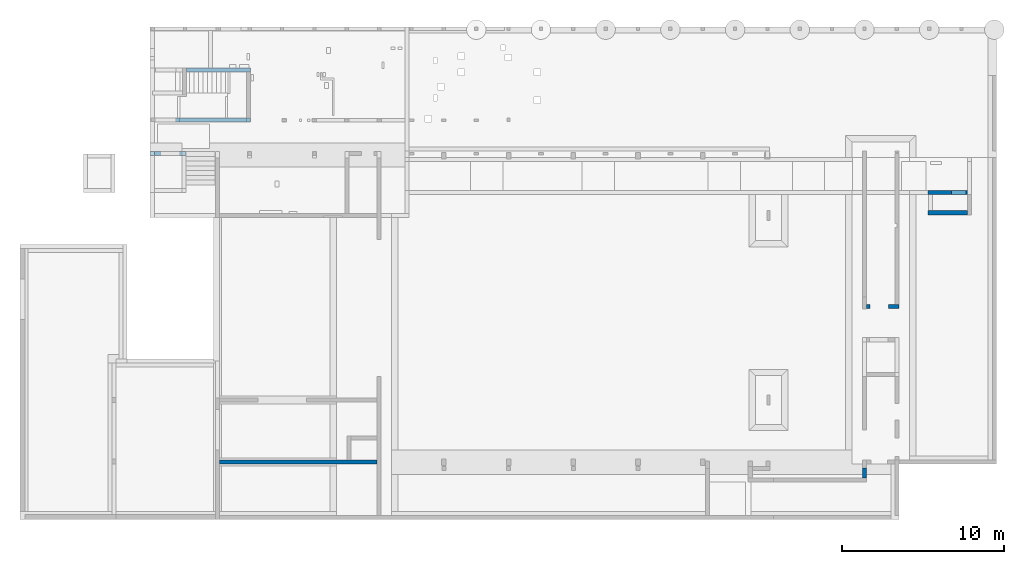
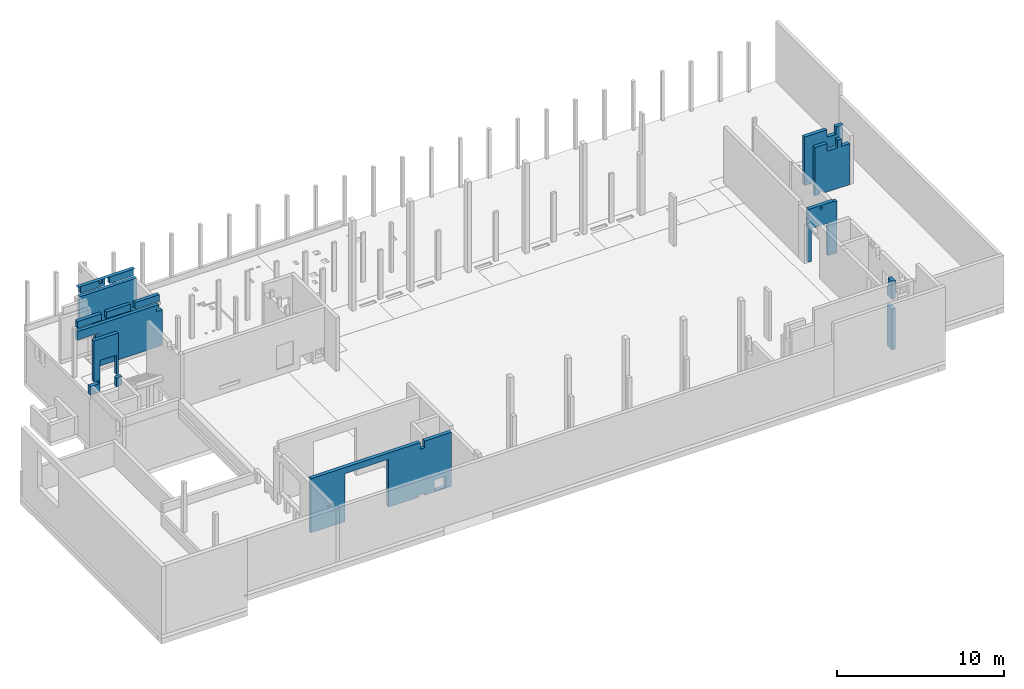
# One storey, part 12 of 12: 8 walls.
"""IFC2X3 building model written with IfcOpenShell, lengths in metres."""

from ifc_helpers import new_model, entity, si_unit, converted_unit, direction, frame, origin, place, context, subcontext, project, spatial, face_set, faceted_brep, surface_model, material, layer, layer_set, type_object, element, save


model = new_model("IFC2X3")

# Units and contexts
model_context = context("Model", 3, precision=1e-05, world=frame((30.086303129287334, 2.687674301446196, 462.0)), true_north=direction((0.19008937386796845, 0.9817667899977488)))
body_context = subcontext(model_context, "Body", "Model", "MODEL_VIEW")
ifc_project = project(units=[si_unit("LENGTHUNIT", "METRE"), si_unit("AREAUNIT", "SQUARE_METRE"), converted_unit("PLANEANGLEUNIT", "DEGREE", entity("IfcPlaneAngleMeasure", 0.017453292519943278), si_unit("PLANEANGLEUNIT", "RADIAN"), dimensions=[0, 0, 0, 0, 0, 0, 0]), si_unit("VOLUMEUNIT", "CUBIC_METRE")], contexts=[model_context])

# Site, building, storey
site_placement = place(None, origin())
site = spatial("IfcSite", under=ifc_project, at=site_placement, Name="Default", CompositionType="ELEMENT")
building_placement = place(site_placement, origin())
building = spatial("IfcBuilding", under=site, at=building_placement, CompositionType="ELEMENT")
storey_placement = place(building_placement, frame((0.0, 0.0, -3.800000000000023)))
storey = spatial("IfcBuildingStorey", under=building, at=storey_placement, Name="FB_U01_OKFB", CompositionType="ELEMENT", Elevation=-3.800000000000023)

# Walls
ifc_material_1 = material(Name="WS_CONCRETE_REINFORCED")
ifc_layer_1 = layer(ifc_material_1, 0.24999999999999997)
ifc_layer_set_1 = layer_set([ifc_layer_1], Name="Basiswand:WS_WAL_CON_250")
wall_type_1 = type_object("IfcWallType", Name="Basiswand:WS_WAL_CON_250", PredefinedType="STANDARD", material=ifc_layer_set_1)
wall_1_placement = place(storey_placement, frame((94.04533746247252, -3.7045709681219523, 3.6800000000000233)))
element("IfcWall", 1, at=wall_1_placement, inside=storey, type_object=wall_type_1, Name="Basiswand:WS_WAL_CON_250", ObjectType="Basiswand:WS_WAL_CON_250", context=body_context, shape_type="Brep", body=[
    faceted_brep([(0.0, -0.12500000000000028, 3.55), (0.0, -0.12500000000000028, 0.0), (0.9249999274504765, -0.12500000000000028, 0.0), (0.9249999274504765, -0.12500000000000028, 0.29999999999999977), (1.2249999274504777, -0.12499999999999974, 0.3000000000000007), (1.2249999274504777, -0.12499999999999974, 0.0), (2.4249999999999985, -0.12499999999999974, 0.0), (2.6749999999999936, -0.12500000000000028, 0.0), (2.6749999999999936, -0.12500000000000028, 3.55), (2.4249999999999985, -0.12499999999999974, 3.55), (2.1750000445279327, -0.12500000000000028, 3.55), (2.1750000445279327, -0.12500000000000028, 3.0), (1.5749993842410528, -0.12499999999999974, 3.0), (1.5749993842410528, -0.12499999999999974, 3.55), (2.3249993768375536, -0.12500000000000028, 1.0199999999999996), (1.4249993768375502, -0.12499999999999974, 1.019999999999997), (1.4249993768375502, -0.12499999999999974, 2.2199999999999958), (2.3249993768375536, -0.12500000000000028, 2.2199999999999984), (0.0, 0.12499999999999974, 0.0), (0.0, 0.12499999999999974, 3.55), (1.574999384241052, 0.12500000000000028, 3.55), (1.574999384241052, 0.12500000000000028, 3.0), (2.175000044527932, 0.12499999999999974, 3.0), (2.175000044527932, 0.12499999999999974, 3.55), (2.6749999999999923, 0.12499999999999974, 3.55), (2.6749999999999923, 0.12499999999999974, 0.0), (1.224999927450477, 0.12500000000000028, 0.0), (1.224999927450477, 0.12500000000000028, 0.3000000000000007), (0.9249999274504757, 0.12499999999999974, 0.29999999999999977), (0.9249999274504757, 0.12499999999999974, 0.0), (1.4249993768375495, 0.12500000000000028, 1.019999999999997), (2.3249993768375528, 0.12499999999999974, 1.0199999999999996), (2.3249993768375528, 0.12499999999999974, 2.2199999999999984), (1.4249993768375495, 0.12500000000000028, 2.2199999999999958)], [[[0, 1, 2, 3, 4, 5, 6, 7, 8, 9, 10, 11, 12, 13], [14, 15, 16, 17]], [[18, 19, 20, 21, 22, 23, 24, 25, 26, 27, 28, 29], [30, 31, 32, 33]], [[1, 18, 29, 2]], [[1, 0, 19, 18]], [[8, 7, 25, 24]], [[30, 15, 14, 31]], [[8, 24, 23, 10, 9]], [[27, 4, 3, 28]], [[28, 3, 2, 29]], [[4, 27, 26, 5]], [[32, 17, 16, 33]], [[33, 16, 15, 30]], [[17, 32, 31, 14]], [[21, 12, 11, 22]], [[12, 21, 20, 13]], [[22, 11, 10, 23]], [[19, 0, 13, 20]], [[25, 7, 6, 5, 26]]]),
])
wall_2_placement = place(storey_placement, frame((96.47033746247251, -4.959576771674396, 3.6800000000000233), z_axis=(0.0, 0.0, 1.0), x_axis=(-1.0, 0.0, 0.0)))
element("IfcWall", 2, at=wall_2_placement, inside=storey, type_object=wall_type_1, Name="Basiswand:WS_WAL_CON_250", ObjectType="Basiswand:WS_WAL_CON_250", context=body_context, shape_type="Brep", body=[
    faceted_brep([(2.4250000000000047, -0.12500000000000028, 0.0), (2.4250000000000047, -0.12500000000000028, 3.55), (1.5999999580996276, -0.12499999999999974, 3.55), (1.5999999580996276, -0.12499999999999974, 3.0), (0.849999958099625, -0.1249999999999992, 3.0), (0.849999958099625, -0.1249999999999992, 3.55), (0.5999999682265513, -0.12499999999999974, 3.55), (0.5999999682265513, -0.12499999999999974, 3.0), (0.0, -0.12499999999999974, 3.0), (0.0, -0.12499999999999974, 0.0), (1.7999999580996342, -0.12500000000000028, 0.0), (1.7999999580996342, -0.12500000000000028, 0.1499999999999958), (2.099999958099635, -0.12500000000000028, 0.14999999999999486), (2.099999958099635, -0.12500000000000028, 0.0), (2.169999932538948, -0.1249999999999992, 0.0), (2.4250000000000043, 0.12499999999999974, 3.55), (2.4250000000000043, 0.12499999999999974, 0.0), (2.0999999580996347, 0.12499999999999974, 0.0), (2.0999999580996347, 0.12499999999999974, 0.14999999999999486), (1.7999999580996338, 0.12499999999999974, 0.1499999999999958), (1.7999999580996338, 0.12499999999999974, 0.0), (0.0, 0.12499999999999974, 0.0), (0.0, 0.12499999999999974, 3.0), (0.5999999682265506, 0.12500000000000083, 3.0), (0.5999999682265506, 0.12500000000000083, 3.55), (0.8499999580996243, 0.12500000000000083, 3.55), (0.8499999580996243, 0.12500000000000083, 3.0), (1.5999999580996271, 0.12500000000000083, 3.0), (1.5999999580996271, 0.12500000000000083, 3.55)], [[[0, 1, 2, 3, 4, 5, 6, 7, 8, 9, 10, 11, 12, 13, 14]], [[15, 16, 17, 18, 19, 20, 21, 22, 23, 24, 25, 26, 27, 28]], [[9, 21, 20, 10]], [[1, 0, 16, 15]], [[21, 9, 8, 22]], [[5, 25, 24, 6]], [[3, 27, 26, 4]], [[7, 23, 22, 8]], [[27, 3, 2, 28]], [[4, 26, 25, 5]], [[23, 7, 6, 24]], [[11, 19, 18, 12]], [[12, 18, 17, 13]], [[19, 11, 10, 20]], [[1, 15, 28, 2]], [[16, 0, 14, 13, 17]]]),
])
wall_3_placement = place(storey_placement, frame((90.23033691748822, -10.759648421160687, 3.6800000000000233)))
element("IfcWall", 3, at=wall_3_placement, inside=storey, type_object=wall_type_1, Name="Basiswand:WS_WAL_CON_250", ObjectType="Basiswand:WS_WAL_CON_250", context=body_context, shape_type="Brep", body=[
    faceted_brep([(2.0000018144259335, -0.12499999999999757, 0.0), (1.3640004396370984, -0.12499999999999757, 0.0), (1.3640004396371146, 0.12500000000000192, 0.0), (1.750001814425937, 0.12499999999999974, 0.0), (2.000001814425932, 0.12500000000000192, 0.0), (0.21900043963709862, -0.12499999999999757, 0.0), (0.0, -0.12499999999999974, 0.0), (0.0, 0.12499999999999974, 0.0), (0.219000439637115, 0.12500000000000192, 0.0), (0.21900043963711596, -0.12499999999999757, 2.384999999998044), (0.0, -0.12499999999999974, 3.8549999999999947), (0.814397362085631, -0.12499999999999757, 3.6050000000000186), (0.830289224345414, -0.12499999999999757, 3.5842893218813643), (0.8509999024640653, -0.12499999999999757, 3.568397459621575), (0.8751179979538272, -0.12499999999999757, 3.5584074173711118), (1.3640004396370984, -0.12499999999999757, 2.384999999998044), (0.9009999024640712, -0.12499999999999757, 3.555000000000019), (0.9268818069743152, -0.12499999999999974, 3.5584074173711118), (0.9509999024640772, -0.12499999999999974, 3.5683974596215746), (0.9717105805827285, -0.12499999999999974, 3.5842893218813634), (1.7500018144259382, -0.12499999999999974, 3.8), (2.0000018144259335, -0.12499999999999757, 3.8), (0.9876024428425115, -0.12499999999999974, 3.605000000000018), (0.9975924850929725, -0.12499999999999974, 3.629118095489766), (1.000999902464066, -0.12499999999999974, 3.655000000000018), (0.9975924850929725, -0.12499999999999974, 3.6808819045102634), (1.7500018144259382, -0.12499999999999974, 3.8549999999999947), (0.9009999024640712, -0.12499999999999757, 3.7549999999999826), (0.9876024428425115, -0.12499999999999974, 3.7050000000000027), (0.9717105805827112, -0.12499999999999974, 3.7257106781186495), (0.9509999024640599, -0.12499999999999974, 3.7416025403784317), (0.9268818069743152, -0.12499999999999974, 3.7515925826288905), (0.8751179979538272, -0.12499999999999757, 3.7515925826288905), (0.8044073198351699, -0.12499999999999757, 3.6291180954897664), (0.8009999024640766, -0.12499999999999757, 3.6550000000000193), (0.8044073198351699, -0.12499999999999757, 3.6808819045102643), (0.8143973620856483, -0.12499999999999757, 3.705000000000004), (0.8302892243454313, -0.12499999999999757, 3.7257106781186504), (0.8509999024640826, -0.12499999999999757, 3.7416025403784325), (2.000001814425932, 0.12500000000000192, 3.55), (1.3640004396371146, 0.12500000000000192, 2.384999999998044), (0.9717105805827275, 0.12499999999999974, 3.5842893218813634), (0.9876024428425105, 0.12499999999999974, 3.605000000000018), (1.750001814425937, 0.12499999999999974, 3.8), (2.000001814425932, 0.12500000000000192, 3.8), (0.9509999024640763, 0.12499999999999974, 3.5683974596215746), (0.9268818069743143, 0.12499999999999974, 3.5584074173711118), (0.9009999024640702, 0.12500000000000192, 3.555000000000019), (0.8751179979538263, 0.12500000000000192, 3.5584074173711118), (0.219000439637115, 0.12500000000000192, 2.384999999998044), (0.8509999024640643, 0.12500000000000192, 3.568397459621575), (0.830289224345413, 0.12500000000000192, 3.5842893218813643), (0.81439736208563, 0.12500000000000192, 3.6050000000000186), (0.0, 0.12499999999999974, 3.8549999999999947), (0.804407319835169, 0.12500000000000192, 3.6291180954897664), (0.8009999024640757, 0.12500000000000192, 3.6550000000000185), (0.804407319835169, 0.12500000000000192, 3.6808819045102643), (0.8143973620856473, 0.12500000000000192, 3.705000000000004), (0.8302892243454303, 0.12500000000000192, 3.7257106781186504), (0.8509999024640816, 0.12500000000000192, 3.7416025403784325), (0.8751179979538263, 0.12500000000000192, 3.7515925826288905), (0.9009999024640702, 0.12500000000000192, 3.7549999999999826), (1.750001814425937, 0.12499999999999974, 3.8549999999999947), (0.9975924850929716, 0.12499999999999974, 3.6808819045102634), (0.9876024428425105, 0.12499999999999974, 3.7050000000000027), (0.9717105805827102, 0.12499999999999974, 3.7257106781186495), (0.950999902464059, 0.12499999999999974, 3.7416025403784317), (0.9268818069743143, 0.12499999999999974, 3.7515925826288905), (0.9975924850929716, 0.12499999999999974, 3.629118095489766), (1.0009999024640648, 0.12499999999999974, 3.655000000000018)], [[[0, 1, 2, 3, 4]], [[5, 6, 7, 8]], [[6, 5, 9]], [[6, 9, 10]], [[9, 11, 10]], [[12, 11, 9]], [[13, 12, 9]], [[14, 13, 9]], [[15, 14, 9]], [[15, 16, 14]], [[17, 16, 15]], [[18, 17, 15]], [[18, 15, 19]], [[15, 20, 19]], [[15, 21, 20]], [[0, 21, 15]], [[1, 0, 15]], [[20, 22, 19]], [[20, 23, 22]], [[20, 24, 23]], [[25, 24, 20]], [[20, 26, 25]], [[10, 27, 26]], [[25, 26, 28]], [[29, 28, 26]], [[29, 26, 30]], [[31, 30, 26]], [[31, 26, 27]], [[32, 27, 10]], [[33, 10, 11]], [[33, 34, 10]], [[35, 10, 34]], [[10, 35, 36]], [[36, 37, 10]], [[37, 38, 10]], [[38, 32, 10]], [[39, 4, 40]], [[41, 39, 40]], [[42, 39, 41]], [[39, 42, 43]], [[43, 44, 39]], [[4, 3, 40]], [[40, 3, 2]], [[45, 41, 40]], [[40, 46, 45]], [[47, 46, 40]], [[47, 40, 48]], [[40, 49, 48]], [[48, 49, 50]], [[51, 50, 49]], [[52, 51, 49]], [[53, 52, 49]], [[7, 53, 49]], [[8, 7, 49]], [[54, 52, 53]], [[55, 54, 53]], [[56, 55, 53]], [[53, 57, 56]], [[58, 57, 53]], [[58, 53, 59]], [[59, 53, 60]], [[61, 60, 53]], [[61, 53, 62]], [[62, 43, 63]], [[63, 64, 62]], [[64, 65, 62]], [[65, 66, 62]], [[62, 66, 67]], [[67, 61, 62]], [[42, 68, 43]], [[68, 69, 43]], [[43, 69, 63]], [[10, 26, 62, 53]], [[7, 6, 10, 53]], [[2, 1, 15, 40]], [[40, 15, 9, 49]], [[49, 9, 5, 8]], [[43, 20, 21, 44]], [[21, 0, 4, 39, 44]], [[20, 43, 62, 26]], [[64, 63, 25, 28]], [[64, 28, 29, 65]], [[67, 66, 30, 31]], [[29, 30, 66, 65]], [[61, 67, 31, 27]], [[69, 24, 25, 63]], [[59, 60, 32, 38]], [[59, 38, 37, 58]], [[56, 57, 36, 35]], [[37, 36, 57, 58]], [[55, 56, 35, 34]], [[27, 32, 60, 61]], [[52, 54, 33, 11]], [[52, 11, 12, 51]], [[48, 50, 13, 14]], [[12, 13, 50, 51]], [[47, 48, 14, 16]], [[55, 34, 33, 54]], [[45, 46, 17, 18]], [[45, 18, 19, 41]], [[68, 42, 22, 23]], [[19, 22, 42, 41]], [[69, 68, 23, 24]], [[16, 17, 46, 47]]]),
])
wall_4_placement = place(storey_placement, frame((59.98033735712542, -20.35964898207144, 3.6800000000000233), z_axis=(0.0, 0.0, 1.0), x_axis=(-1.0, 0.0, 0.0)))
element("IfcWall", 4, at=wall_4_placement, inside=storey, type_object=wall_type_1, Name="Basiswand:WS_WAL_CON_250", ObjectType="Basiswand:WS_WAL_CON_250", context=body_context, shape_type="SurfaceModel", body=[
    surface_model("IfcFaceBasedSurfaceModel", [(7.375000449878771, -0.12499999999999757, 3.519999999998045), (4.375000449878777, -0.12499999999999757, 3.519999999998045), (4.375000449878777, -0.12499999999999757, 0.0), (2.2599999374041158, -0.12499999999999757, 0.0), (2.2599999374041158, -0.12499999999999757, 0.14999999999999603), (1.8599999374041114, -0.12499999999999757, 0.14999999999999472), (1.8599999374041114, -0.12499999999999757, 0.0), (1.6099999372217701, -0.12499999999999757, 0.0), (0.0, -0.12499999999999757, 0.0), (0.0, -0.12499999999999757, 3.969999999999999), (1.8599999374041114, -0.12499999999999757, 3.96999999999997), (1.8599999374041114, -0.12499999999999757, 3.4699999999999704), (2.1599999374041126, -0.12500000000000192, 3.4699999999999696), (2.1599999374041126, -0.12500000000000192, 3.969999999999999), (8.246777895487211, -0.12499999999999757, 3.9699999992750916), (8.21702821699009, -0.12499999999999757, 3.9660649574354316), (8.189309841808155, -0.12499999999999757, 3.9545674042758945), (8.165509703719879, -0.12499999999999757, 3.9362902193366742), (8.147248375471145, -0.12499999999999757, 3.912477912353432), (8.135769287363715, -0.12499999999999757, 3.884751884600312), (8.131854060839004, -0.12499999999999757, 3.8550000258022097), (8.135772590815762, -0.12499999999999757, 3.8252358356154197), (8.147261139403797, -0.12499999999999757, 3.7975000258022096), (8.165536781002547, -0.12499999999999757, 3.773682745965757), (8.189354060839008, -0.12499999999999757, 3.7554071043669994), (8.217089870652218, -0.12499999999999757, 3.743918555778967), (8.246854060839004, -0.12499999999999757, 3.7400000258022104), (8.27661825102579, -0.12499999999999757, 3.7439185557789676), (8.304354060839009, -0.12499999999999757, 3.7554071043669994), (8.32817134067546, -0.12499999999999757, 3.773682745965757), (8.34644698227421, -0.12499999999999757, 3.79750002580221), (8.357935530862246, -0.12499999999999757, 3.8252358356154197), (8.361854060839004, -0.12499999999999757, 3.8550000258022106), (8.358962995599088, -0.12499999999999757, 3.880623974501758), (8.350449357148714, -0.12499999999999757, 3.9049301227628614), (8.336740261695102, -0.12499999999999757, 3.926731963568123), (8.318525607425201, -0.12499999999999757, 3.944934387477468), (8.296714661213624, -0.12499999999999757, 3.958628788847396), (8.272394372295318, -0.12499999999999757, 3.9671280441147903), (8.246777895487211, -0.12499999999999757, 3.969999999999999), (9.750000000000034, -0.12499999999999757, 3.969999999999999), (9.750000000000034, -0.12499999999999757, 0.0), (7.375000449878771, -0.12499999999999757, 0.0), (1.2000000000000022, -0.12499999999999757, 0.08000000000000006), (1.2000000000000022, -0.12499999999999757, 0.8799999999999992), (0.4000000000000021, -0.12499999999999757, 0.8799999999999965), (0.4000000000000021, -0.12499999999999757, 0.07999999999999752), (7.37500044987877, 0.12500000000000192, 0.0), (9.750000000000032, 0.12500000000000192, 0.0), (9.750000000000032, 0.12500000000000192, 3.969999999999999), (8.246930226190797, 0.12500000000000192, 3.9699999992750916), (8.276679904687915, 0.12500000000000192, 3.9660649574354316), (8.30439827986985, 0.12500000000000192, 3.9545674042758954), (8.328198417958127, 0.12500000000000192, 3.9362902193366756), (8.346459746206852, 0.12500000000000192, 3.9124779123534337), (8.357938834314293, 0.12500000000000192, 3.884751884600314), (8.361854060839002, 0.12500000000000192, 3.85500002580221), (8.357935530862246, 0.12500000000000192, 3.8252358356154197), (8.34644698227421, 0.12500000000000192, 3.79750002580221), (8.32817134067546, 0.12500000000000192, 3.773682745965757), (8.304354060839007, 0.12500000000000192, 3.7554071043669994), (8.27661825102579, 0.12500000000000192, 3.7439185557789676), (8.246854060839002, 0.12500000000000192, 3.7400000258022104), (8.217089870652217, 0.12500000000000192, 3.743918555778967), (8.189354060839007, 0.12500000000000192, 3.7554071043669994), (8.165536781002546, 0.12500000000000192, 3.773682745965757), (8.147261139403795, 0.12500000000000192, 3.7975000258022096), (8.13577259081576, 0.12500000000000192, 3.8252358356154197), (8.131854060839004, 0.12500000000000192, 3.8550000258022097), (8.13474512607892, 0.12500000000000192, 3.8806239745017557), (8.143258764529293, 0.12500000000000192, 3.90493012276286), (8.156967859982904, 0.12500000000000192, 3.9267319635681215), (8.175182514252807, 0.12500000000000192, 3.944934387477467), (8.196993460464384, 0.12500000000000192, 3.9586287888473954), (8.221313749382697, 0.12500000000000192, 3.967128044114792), (8.246930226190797, 0.12500000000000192, 3.969999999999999), (2.1599999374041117, 0.12499999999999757, 3.969999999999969), (2.1599999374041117, 0.12499999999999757, 3.469999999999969), (1.8599999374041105, 0.12500000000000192, 3.4699999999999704), (1.8599999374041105, 0.12500000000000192, 3.969999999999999), (0.0, 0.12500000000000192, 3.969999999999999), (0.0, 0.12500000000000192, 0.14999999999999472), (0.0, 0.12500000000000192, 0.0), (1.8599999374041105, 0.12500000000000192, 0.0), (1.8599999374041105, 0.12500000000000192, 0.14999999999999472), (2.259999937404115, 0.12500000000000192, 0.14999999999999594), (2.259999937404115, 0.12500000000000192, 0.0), (4.375000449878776, 0.12500000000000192, 0.0), (4.375000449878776, 0.12500000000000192, 3.519999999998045), (7.37500044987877, 0.12500000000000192, 3.519999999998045), (0.4000000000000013, 0.12500000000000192, 0.07999999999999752), (0.4000000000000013, 0.12500000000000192, 0.8799999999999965), (1.2000000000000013, 0.12500000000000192, 0.8799999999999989), (1.2000000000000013, 0.12500000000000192, 0.08000000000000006)], [face_set([[[0, 1, 2, 3, 4, 5, 6, 7, 8, 9, 10, 11, 12, 13, 14, 15, 16, 17, 18, 19, 20, 21, 22, 23, 24, 25, 26, 27, 28, 29, 30, 31, 32, 33, 34, 35, 36, 37, 38, 39, 40, 41, 42], [43, 44, 45, 46]], [[47, 48, 49, 50, 51, 52, 53, 54, 55, 56, 57, 58, 59, 60, 61, 62, 63, 64, 65, 66, 67, 68, 69, 70, 71, 72, 73, 74, 75, 76, 77, 78, 79, 80, 81, 82, 83, 84, 85, 86, 87, 88, 89], [90, 91, 92, 93]], [[8, 82, 83, 6, 7]], [[82, 8, 9, 80, 81]], [[41, 40, 49, 48]], [[14, 13, 76, 50, 49, 40]], [[90, 93, 43, 46]], [[92, 44, 45, 91]], [[91, 90, 46, 45]], [[44, 92, 93, 43]], [[0, 89, 47, 42]], [[89, 0, 1, 88]], [[88, 87, 2, 1]], [[12, 11, 78, 77]], [[77, 12, 13, 76]], [[11, 10, 79, 78]], [[19, 20, 69]], [[19, 70, 18]], [[16, 15, 73]], [[16, 17, 72]], [[17, 18, 71]], [[74, 15, 14]], [[68, 69, 20]], [[69, 70, 19]], [[70, 71, 18]], [[71, 72, 17]], [[16, 72, 73]], [[15, 74, 73]], [[14, 50, 74]], [[51, 38, 37]], [[36, 52, 37]], [[34, 33, 55]], [[54, 35, 34]], [[53, 36, 35]], [[56, 33, 32]], [[38, 51, 50]], [[37, 52, 51]], [[36, 53, 52]], [[35, 54, 53]], [[55, 54, 34]], [[33, 56, 55]], [[38, 50, 14]], [[58, 57, 31, 30]], [[59, 58, 30, 29]], [[27, 28, 60, 61]], [[60, 59, 29, 28]], [[26, 27, 61, 62]], [[57, 56, 32, 31]], [[24, 25, 63, 64]], [[23, 24, 64, 65]], [[21, 22, 66, 67]], [[22, 23, 65, 66]], [[20, 21, 67, 68]], [[62, 63, 25, 26]], [[85, 4, 5, 84]], [[84, 83, 6, 5]], [[4, 85, 86, 3]], [[9, 80, 79, 10]], [[87, 2, 3, 86]], [[48, 41, 42, 47]]])]),
])
wall_5_placement = place(storey_placement, frame((45.95533900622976, -1.2946478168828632, 3.6800000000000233)))
element("IfcWall", 5, at=wall_5_placement, inside=storey, type_object=wall_type_1, Name="Basiswand:WS_WAL_CON_250", ObjectType="Basiswand:WS_WAL_CON_250", context=body_context, shape_type="Brep", body=[
    faceted_brep([(1.8099996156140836, -0.125, 0.0), (2.1999996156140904, -0.12500000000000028, 0.0), (2.1999996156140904, -0.12500000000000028, 0.6499999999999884), (1.9499996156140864, -0.12500000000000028, 0.6499999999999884), (1.8099996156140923, -0.125, 0.6499999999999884), (2.1999996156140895, 0.12499999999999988, 0.0), (1.8099996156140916, 0.125, 0.0), (1.8099996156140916, 0.125, 0.6499999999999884), (2.1999996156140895, 0.12499999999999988, 0.6499999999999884), (2.19999961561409, 0.005000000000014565, 0.0)], [[[0, 1, 2, 3, 4]], [[5, 6, 7, 8]], [[4, 3, 2, 8, 7]], [[1, 9, 5, 8, 2]], [[6, 0, 4, 7]], [[5, 9, 1, 0, 6]]]),
    faceted_brep([(0.0, -0.12500000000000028, 0.0), (0.0, 0.125, 0.0), (0.6699996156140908, 0.125, 0.0), (0.6699996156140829, -0.125, 0.0), (0.25000000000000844, -0.125, 0.0), (0.25000000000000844, -0.125, 3.905), (1.9499996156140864, -0.125, 3.905), (1.9499996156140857, 0.12499999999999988, 3.905), (0.25000000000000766, 0.125, 3.905), (0.6699996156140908, 0.125, 2.339999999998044), (0.6699996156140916, -0.125, 2.339999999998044), (1.8099996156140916, 0.125, 2.339999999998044), (1.8099996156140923, -0.125, 2.339999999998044), (1.8099996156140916, 0.125, 0.8999999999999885), (1.8099996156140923, -0.125, 0.8999999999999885), (0.5899996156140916, 0.12500000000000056, 0.8999999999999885), (0.5899996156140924, -0.125, 0.8999999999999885), (0.25000000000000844, -0.12500000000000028, 0.8999999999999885), (0.25000000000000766, 0.125, 0.8999999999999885), (0.5899996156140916, 0.12500000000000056, 0.6499999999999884), (0.5899996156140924, -0.125, 0.6499999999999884), (1.9499996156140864, -0.12500000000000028, 0.8999999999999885), (1.9499996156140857, 0.12499999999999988, 0.8999999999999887), (0.0, -0.125, 0.6499999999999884), (0.0, -0.03499997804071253, 0.6499999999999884), (0.0, 0.125, 0.6499999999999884), (0.25000000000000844, -0.125, 0.6499999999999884)], [[[0, 1, 2, 3, 4]], [[5, 6, 7, 8]], [[9, 10, 3, 2]], [[10, 9, 11, 12]], [[12, 11, 13, 14]], [[15, 16, 17, 18]], [[19, 20, 16, 15]], [[7, 6, 21, 22]], [[1, 0, 23, 24, 25]], [[5, 8, 18, 17]], [[21, 14, 13, 22]], [[20, 19, 25, 24, 23, 26]], [[8, 7, 22, 13, 11, 9, 2, 1, 25, 19, 15, 18]], [[6, 5, 17, 16, 20, 26, 23, 0, 4, 3, 10, 12, 14, 21]]]),
])
wall_6_placement = place(storey_placement, frame((90.10533691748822, -21.364656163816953, 3.6800000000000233), z_axis=(0.0, 0.0, 1.0), x_axis=(0.0, 1.0, 0.0)))
element("IfcWall", 6, at=wall_6_placement, inside=storey, type_object=wall_type_1, Name="Basiswand:WS_WAL_CON_250", ObjectType="Basiswand:WS_WAL_CON_250", context=body_context, shape_type="Brep", body=[
    faceted_brep([(0.0, -0.12499999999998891, 0.0), (0.6150962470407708, -0.12499999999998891, 0.0), (0.6150962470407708, -0.12499999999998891, 3.0), (0.0, -0.12499999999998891, 3.0), (0.6150962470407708, 0.12500000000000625, 0.0), (0.0, 0.12500000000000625, 0.0), (0.0, 0.12500000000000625, 3.0), (0.6150962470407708, 0.12500000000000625, 3.0)], [[[0, 1, 2, 3]], [[4, 5, 6, 7]], [[1, 0, 5, 4]], [[1, 4, 7, 2]], [[5, 0, 3, 6]], [[3, 2, 7, 6]]]),
    faceted_brep([(0.0, -0.12499999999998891, 5.039999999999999), (0.4750962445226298, -0.12499999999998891, 5.039999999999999), (0.4750962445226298, 0.12500000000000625, 5.039999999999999), (0.0, 0.12500000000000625, 5.039999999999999), (0.0, 0.0, 5.039999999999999), (0.4750962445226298, -0.12499999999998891, 4.329999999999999), (0.6150962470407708, -0.12499999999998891, 4.329999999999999), (0.6150962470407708, 0.12500000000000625, 4.329999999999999), (0.4750962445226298, 0.12500000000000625, 4.329999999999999), (0.6150962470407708, -0.12499999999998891, 3.7), (0.0, -0.12499999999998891, 3.7000000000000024), (0.0, 0.12500000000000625, 3.7000000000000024), (0.6150962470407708, 0.12500000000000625, 3.7), (0.0, -0.12499999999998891, 4.329999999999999), (0.6150962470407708, -0.12499999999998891, 3.8549999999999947), (0.6150962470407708, 0.12500000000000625, 3.8549999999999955)], [[[0, 1, 2, 3, 4]], [[5, 6, 7, 8]], [[1, 5, 8, 2]], [[9, 10, 11, 12]], [[0, 4, 3, 11, 10, 13]], [[7, 6, 14, 9, 12, 15]], [[3, 2, 8, 7, 15, 12, 11]], [[1, 0, 13, 10, 9, 14, 6, 5]]]),
])
ifc_material_2 = material(Name="WS_MASONRY")
ifc_layer_2 = layer(ifc_material_2, 0.24)
ifc_layer_set_2 = layer_set([ifc_layer_2], Name="Basiswand:WS_WAL_MAS_240")
wall_type_2 = type_object("IfcWallType", Name="Basiswand:WS_WAL_MAS_240", PredefinedType="STANDARD", material=ifc_layer_set_2)
wall_7_placement = place(storey_placement, frame((48.07033783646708, 3.8653914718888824, 3.930000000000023)))
element("IfcWall", 7, at=wall_7_placement, inside=storey, type_object=wall_type_2, Name="Basiswand:WS_WAL_MAS_240", ObjectType="Basiswand:WS_WAL_MAS_240", context=body_context, shape_type="Brep", body=[
    faceted_brep([(0.11999999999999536, -0.12000000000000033, 0.0), (3.8449988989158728, -0.12000000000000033, 0.0), (4.08499889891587, -0.12000000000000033, 0.0), (4.08499889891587, -0.12000000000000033, 3.0620000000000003), (3.8449988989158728, -0.12000000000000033, 3.0620000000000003), (0.11999999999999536, -0.12000000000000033, 3.0620000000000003), (4.0849988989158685, 0.11999999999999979, 0.0), (0.11999999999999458, 0.11999999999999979, 0.0), (0.11999999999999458, 0.11999999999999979, 3.0620000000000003), (4.0849988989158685, 0.11999999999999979, 3.0620000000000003)], [[[0, 1, 2, 3, 4, 5]], [[6, 7, 8, 9]], [[3, 2, 6, 9]], [[2, 1, 0, 7, 6]], [[5, 4, 3, 9, 8]], [[0, 5, 8, 7]]]),
    faceted_brep([(2.1949995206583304, 0.11999999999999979, 3.790000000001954), (2.19499952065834, -0.12000000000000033, 3.790000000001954), (1.8749995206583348, -0.1199999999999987, 3.7900000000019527), (1.8749995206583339, 0.11999999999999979, 3.7900000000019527), (1.8749995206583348, -0.12000000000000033, 3.3000000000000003), (1.8749995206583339, 0.11999999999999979, 3.3000000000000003), (2.1949995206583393, 0.11999999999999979, 3.3000000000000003), (2.19499952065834, -0.12000000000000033, 3.3000000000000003), (0.1950025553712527, 0.11999999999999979, 3.79), (0.19500255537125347, -0.12000000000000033, 3.79), (0.0, -0.12000000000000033, 3.789999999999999), (0.0, 0.11999999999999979, 3.789999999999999), (0.1950025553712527, 0.11999999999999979, 3.3000000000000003), (0.19500255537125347, -0.12000000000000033, 3.3000000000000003), (3.874998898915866, -0.1199999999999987, 3.7899999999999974), (3.8749988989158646, 0.11999999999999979, 3.7899999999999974), (3.9649988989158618, 0.11999999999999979, 3.7899999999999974), (3.9649988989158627, -0.12000000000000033, 3.7899999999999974), (3.874998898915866, -0.11999999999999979, 3.3000000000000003), (3.8749988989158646, 0.11999999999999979, 3.3000000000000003), (0.0, -0.12000000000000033, 3.794999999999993), (3.9649988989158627, -0.12000000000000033, 3.794999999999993), (3.9649988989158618, 0.11999999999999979, 3.794999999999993), (0.0, 0.11999999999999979, 3.794999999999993), (1.720000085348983, 0.11999999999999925, 3.7899999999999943), (1.7200000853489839, -0.12000000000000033, 3.7899999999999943), (1.4800000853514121, -0.12000000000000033, 3.7899999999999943), (1.4800000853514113, 0.11999999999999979, 3.7899999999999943), (1.720000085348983, 0.11999999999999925, 3.5519999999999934), (1.7200000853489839, -0.12000000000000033, 3.5519999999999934), (1.4800000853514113, 0.11999999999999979, 3.5519999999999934), (1.4800000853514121, -0.12000000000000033, 3.5519999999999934)], [[[0, 1, 2, 3]], [[3, 2, 4, 5]], [[1, 0, 6, 7]], [[8, 9, 10, 11]], [[9, 8, 12, 13]], [[14, 15, 16, 17]], [[15, 14, 18, 19]], [[20, 21, 22, 23]], [[20, 23, 11, 10]], [[19, 18, 7, 6]], [[22, 21, 17, 16]], [[24, 25, 26, 27]], [[25, 24, 28, 29]], [[29, 28, 30, 31]], [[27, 26, 31, 30]], [[13, 12, 5, 4]], [[23, 22, 16, 15, 19, 6, 0, 3, 5, 12, 8, 11], [24, 27, 30, 28]], [[21, 20, 10, 9, 13, 4, 2, 1, 7, 18, 14, 17], [26, 25, 29, 31]]]),
])
wall_8_placement = place(storey_placement, frame((46.24543860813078, 0.7853466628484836, 3.9300000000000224)))
element("IfcWall", 8, at=wall_8_placement, inside=storey, type_object=wall_type_2, Name="Basiswand:WS_WAL_MAS_240", ObjectType="Basiswand:WS_WAL_MAS_240", context=body_context, shape_type="Brep", body=[
    faceted_brep([(0.019900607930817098, -0.11999999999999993, 3.7899999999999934), (0.019900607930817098, -0.11999999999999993, 3.299999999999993), (1.699901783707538, -0.12000000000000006, 3.299999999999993), (1.699901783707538, -0.12000000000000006, 3.7899999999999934), (0.019900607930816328, 0.12000000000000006, 3.7899999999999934), (0.019900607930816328, 0.11999999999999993, 3.299999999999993), (1.6999017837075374, 0.11999999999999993, 3.299999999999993), (1.6999017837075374, 0.11999999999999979, 3.7899999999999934)], [[[0, 1, 2, 3]], [[1, 0, 4, 5]], [[3, 2, 6, 7]], [[1, 5, 6, 2]], [[4, 0, 3, 7]], [[5, 4, 7, 6]]]),
    faceted_brep([(5.9098981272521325, 0.11999999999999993, 2.6100000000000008), (5.9098981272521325, 0.11999999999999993, 0.0), (5.669898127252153, 0.11999999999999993, 0.0), (1.269999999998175, 0.11999999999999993, 0.0), (1.2699999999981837, 0.11999999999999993, 2.369999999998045), (1.5090705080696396, 0.11999999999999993, 2.369999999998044), (1.5090705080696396, 0.11999999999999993, 2.4410000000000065), (0.0, 0.11999999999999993, 2.4410000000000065), (0.0, 0.11999999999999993, 3.0620000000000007), (5.669898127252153, 0.11999999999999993, 3.0620000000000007), (5.669898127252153, 0.11999999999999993, 2.860000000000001), (5.509911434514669, 0.12000000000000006, 2.860000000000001), (5.509911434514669, 0.12000000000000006, 2.6100000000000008), (5.669898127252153, 0.11999999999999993, 2.6100000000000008), (1.2699999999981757, -0.12000000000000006, 0.0), (1.2699999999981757, -0.12000000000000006, 2.369999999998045), (5.909898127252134, -0.12000000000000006, 0.0), (5.909898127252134, -0.12000000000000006, 2.6100000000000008), (0.0, -0.12000000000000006, 3.0620000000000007), (5.669898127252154, -0.12000000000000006, 3.0620000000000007), (5.669898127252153, 0.0950049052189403, 3.0620000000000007), (0.0, -0.12000000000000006, 2.4410000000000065), (1.5090705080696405, -0.12000000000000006, 2.4410000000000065), (1.5090705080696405, -0.12000000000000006, 2.369999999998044), (5.509911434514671, -0.11999999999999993, 2.6100000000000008), (5.509911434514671, -0.11999999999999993, 2.860000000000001), (5.669898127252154, -0.12000000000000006, 2.860000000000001), (5.669898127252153, 0.0950049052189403, 2.860000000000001)], [[[0, 1, 2, 3, 4, 5, 6, 7, 8, 9, 10, 11, 12, 13]], [[14, 15, 4, 3]], [[16, 14, 3, 2, 1]], [[17, 16, 1, 0]], [[18, 19, 20, 9, 8]], [[21, 18, 8, 7]], [[22, 21, 7, 6]], [[23, 22, 6, 5]], [[23, 5, 4, 15]], [[24, 17, 0, 13, 12]], [[25, 24, 12, 11]], [[26, 25, 11, 10, 27]], [[19, 26, 27, 10, 9, 20]], [[16, 17, 24, 25, 26, 19, 18, 21, 22, 23, 15, 14]]]),
    faceted_brep([(3.6998987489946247, -0.12000000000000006, 3.7899999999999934), (3.6998987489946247, -0.12000000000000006, 3.299999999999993), (3.6998987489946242, 0.11999999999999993, 3.299999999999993), (3.6998987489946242, 0.11999999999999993, 3.7899999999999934), (2.0199017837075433, -0.12000000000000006, 3.299999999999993), (2.0199017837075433, -0.12000000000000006, 3.7899999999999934), (2.0199017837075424, 0.11999999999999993, 3.7899999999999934), (2.0199017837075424, 0.12000000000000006, 3.299999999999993)], [[[0, 1, 2, 3]], [[4, 5, 6, 7]], [[2, 1, 4, 7]], [[0, 3, 6, 5]], [[3, 2, 7, 6]], [[1, 0, 5, 4]]]),
    faceted_brep([(4.019898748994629, -0.12000000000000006, 3.299999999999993), (4.019898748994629, -0.12000000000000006, 3.7899999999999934), (4.019898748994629, 0.11999999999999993, 3.7899999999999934), (4.019898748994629, 0.11999999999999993, 3.299999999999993), (5.699898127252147, -0.12000000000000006, 3.7899999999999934), (5.699898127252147, -0.12000000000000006, 3.299999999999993), (5.699898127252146, 0.11999999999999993, 3.299999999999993), (5.699898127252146, 0.11999999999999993, 3.7899999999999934)], [[[0, 1, 2, 3]], [[4, 5, 6, 7]], [[1, 4, 7, 2]], [[6, 5, 0, 3]], [[3, 2, 7, 6]], [[1, 0, 5, 4]]]),
])

save(model, "model.ifc")
